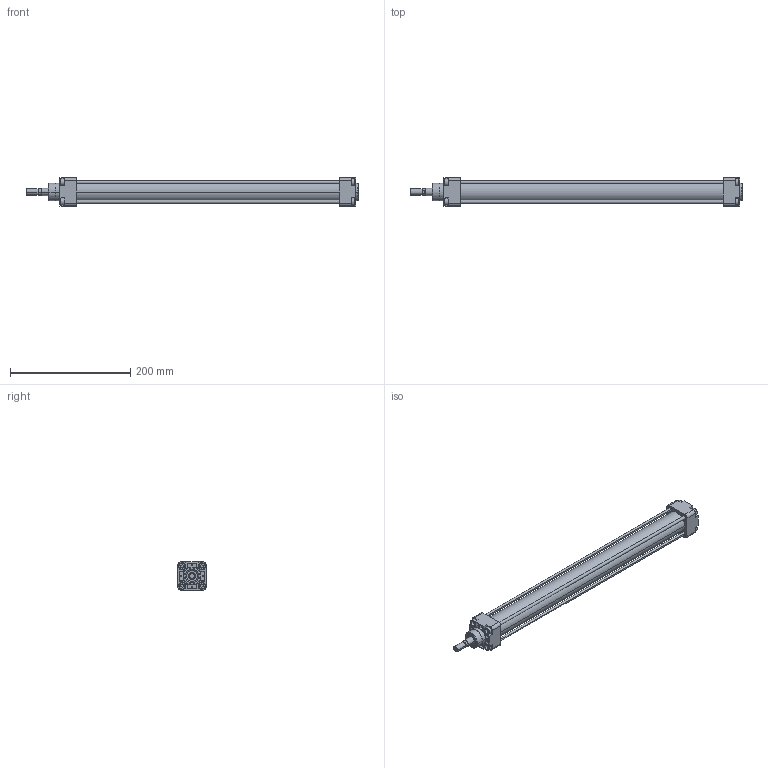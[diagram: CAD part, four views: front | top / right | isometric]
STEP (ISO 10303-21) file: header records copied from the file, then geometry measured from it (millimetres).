
FILE_DESCRIPTION(('CATIA V5 STEP Exchange'),'2;1');
FILE_NAME('D:\stp file for catalog\PNC\32\PNC 32-12-400.stp','2015-10-14T11:26:05+00:00',('none'),('none'),'Version 5-6 Release 2012','CATIA V5 STEP AP203','none');
FILE_SCHEMA(('CONFIG_CONTROL_DESIGN'));
Length unit declared in the file: millimetre
Products named in the file (1): PNC 32-12-400-00
Assembly tree (2 placements, depth 2):
  PNC 32-12-400-00
    #58
    #15737
Bounding box: 552.5 x 47 x 47 mm (x, y, z)
Volume: 321657.9 mm3; surface area: 185610 mm2
Topology: 6 solids, 6 shells, 587 faces, 1488 edges, 974 vertices
Faces by surface type: plane 359, cylinder 166, torus 26, cone 20, extrusion 16
Entity records: 16261 total; most frequent: CARTESIAN_POINT 3407, ORIENTED_EDGE 2976, DIRECTION 1948, EDGE_CURVE 1488, VERTEX_POINT 974, VECTOR 896, LINE 880, AXIS2_PLACEMENT_3D 773
